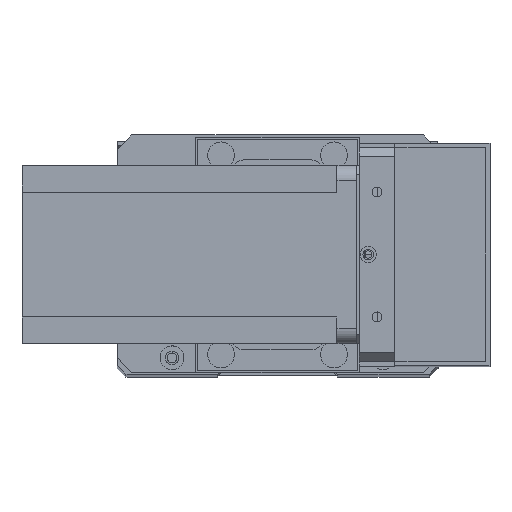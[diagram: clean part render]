
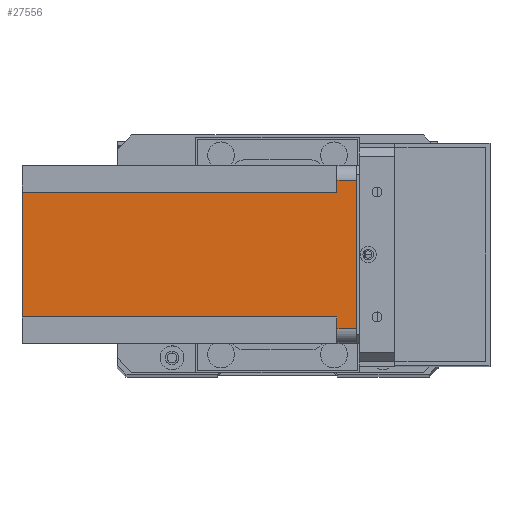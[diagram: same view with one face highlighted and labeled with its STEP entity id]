
A CAD part, top view. The second image highlights one B-rep face of the part: STEP entity #27556.
In plain terms, the highlighted planar face has unit normal (0, 0, 1) as drawn and (1, 0, 0) by its records, which use the part's own axes.
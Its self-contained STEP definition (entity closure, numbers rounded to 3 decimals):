
#564 = DIRECTION ( 'NONE',  ( 0., 1., 0. ) ) ;
#686 = VERTEX_POINT ( 'NONE', #4916 ) ;
#762 = CARTESIAN_POINT ( 'NONE',  ( 60., 9., -112.5 ) ) ;
#906 = VECTOR ( 'NONE', #7495, 1000. ) ;
#1671 = VERTEX_POINT ( 'NONE', #7643 ) ;
#2462 = ORIENTED_EDGE ( 'NONE', *, *, #24755, .F. ) ;
#3409 = CARTESIAN_POINT ( 'NONE',  ( 60., 55., -6.5 ) ) ;
#3602 = EDGE_CURVE ( 'NONE', #19483, #18782, #5462, .T. ) ;
#3879 = DIRECTION ( 'NONE',  ( 0., 0., -1. ) ) ;
#4692 = DIRECTION ( 'NONE',  ( 0., 0., -1. ) ) ;
#4881 = CARTESIAN_POINT ( 'NONE',  ( 60., 5., 0. ) ) ;
#4916 = CARTESIAN_POINT ( 'NONE',  ( 60., 55., 0. ) ) ;
#5052 = LINE ( 'NONE', #9631, #15548 ) ;
#5173 = ORIENTED_EDGE ( 'NONE', *, *, #13604, .T. ) ;
#5252 = CARTESIAN_POINT ( 'NONE',  ( 60., 0., -6.5 ) ) ;
#5462 = LINE ( 'NONE', #18084, #17363 ) ;
#5770 = EDGE_CURVE ( 'NONE', #17911, #23654, #28415, .T. ) ;
#5893 = LINE ( 'NONE', #7212, #28950 ) ;
#6123 = ORIENTED_EDGE ( 'NONE', *, *, #5770, .F. ) ;
#6919 = LINE ( 'NONE', #17266, #12892 ) ;
#7212 = CARTESIAN_POINT ( 'NONE',  ( 60., 0., 0. ) ) ;
#7254 = ORIENTED_EDGE ( 'NONE', *, *, #23131, .F. ) ;
#7409 = VECTOR ( 'NONE', #27669, 1000. ) ;
#7495 = DIRECTION ( 'NONE',  ( 0., -1., 0. ) ) ;
#7643 = CARTESIAN_POINT ( 'NONE',  ( 60., 9., -6.5 ) ) ;
#8430 = EDGE_CURVE ( 'NONE', #17911, #686, #16414, .T. ) ;
#9631 = CARTESIAN_POINT ( 'NONE',  ( 60., 9., -112.5 ) ) ;
#10214 = VERTEX_POINT ( 'NONE', #762 ) ;
#10247 = ORIENTED_EDGE ( 'NONE', *, *, #8430, .T. ) ;
#10722 = DIRECTION ( 'NONE',  ( 0., 0., 1. ) ) ;
#10970 = ORIENTED_EDGE ( 'NONE', *, *, #18434, .F. ) ;
#11174 = VECTOR ( 'NONE', #10722, 1000. ) ;
#11891 = DIRECTION ( 'NONE',  ( 0., 0., 1. ) ) ;
#12035 = CARTESIAN_POINT ( 'NONE',  ( 60., 0., -112.5 ) ) ;
#12892 = VECTOR ( 'NONE', #3879, 1000. ) ;
#13037 = AXIS2_PLACEMENT_3D ( 'NONE', #19039, #28026, #14637 ) ;
#13348 = LINE ( 'NONE', #12035, #7409 ) ;
#13573 = DIRECTION ( 'NONE',  ( 0., -1., 0. ) ) ;
#13604 = EDGE_CURVE ( 'NONE', #10214, #28676, #13348, .T. ) ;
#14637 = DIRECTION ( 'NONE',  ( 0., 1., 0. ) ) ;
#15208 = CARTESIAN_POINT ( 'NONE',  ( 60., 55., -112.5 ) ) ;
#15548 = VECTOR ( 'NONE', #11891, 1000. ) ;
#16259 = EDGE_CURVE ( 'NONE', #23654, #28676, #6919, .T. ) ;
#16414 = LINE ( 'NONE', #15208, #11174 ) ;
#16441 = CARTESIAN_POINT ( 'NONE',  ( 60., 51., -112.5 ) ) ;
#16545 = VECTOR ( 'NONE', #13573, 1000. ) ;
#17266 = CARTESIAN_POINT ( 'NONE',  ( 60., 51., -112.5 ) ) ;
#17363 = VECTOR ( 'NONE', #4692, 1000. ) ;
#17911 = VERTEX_POINT ( 'NONE', #3409 ) ;
#18084 = CARTESIAN_POINT ( 'NONE',  ( 60., 5., -112.5 ) ) ;
#18119 = CARTESIAN_POINT ( 'NONE',  ( 60., 5., -6.5 ) ) ;
#18434 = EDGE_CURVE ( 'NONE', #10214, #1671, #5052, .T. ) ;
#18749 = LINE ( 'NONE', #5252, #906 ) ;
#18782 = VERTEX_POINT ( 'NONE', #18119 ) ;
#19039 = CARTESIAN_POINT ( 'NONE',  ( 60., 0., -112.5 ) ) ;
#19483 = VERTEX_POINT ( 'NONE', #4881 ) ;
#19890 = EDGE_LOOP ( 'NONE', ( #6123, #10247, #7254, #27896, #2462, #10970, #5173, #22888 ) ) ;
#22059 = FACE_OUTER_BOUND ( 'NONE', #19890, .T. ) ;
#22231 = CARTESIAN_POINT ( 'NONE',  ( 60., 51., -6.5 ) ) ;
#22888 = ORIENTED_EDGE ( 'NONE', *, *, #16259, .F. ) ;
#23131 = EDGE_CURVE ( 'NONE', #19483, #686, #5893, .T. ) ;
#23654 = VERTEX_POINT ( 'NONE', #22231 ) ;
#24755 = EDGE_CURVE ( 'NONE', #1671, #18782, #18749, .T. ) ;
#25761 = PLANE ( 'NONE',  #13037 ) ;
#26965 = CARTESIAN_POINT ( 'NONE',  ( 60., 60., -6.5 ) ) ;
#27556 = ADVANCED_FACE ( 'NONE', ( #22059 ), #25761, .T. ) ;
#27669 = DIRECTION ( 'NONE',  ( 0., 1., 0. ) ) ;
#27896 = ORIENTED_EDGE ( 'NONE', *, *, #3602, .T. ) ;
#28026 = DIRECTION ( 'NONE',  ( 1., 0., 0. ) ) ;
#28415 = LINE ( 'NONE', #26965, #16545 ) ;
#28676 = VERTEX_POINT ( 'NONE', #16441 ) ;
#28950 = VECTOR ( 'NONE', #564, 1000. ) ;
